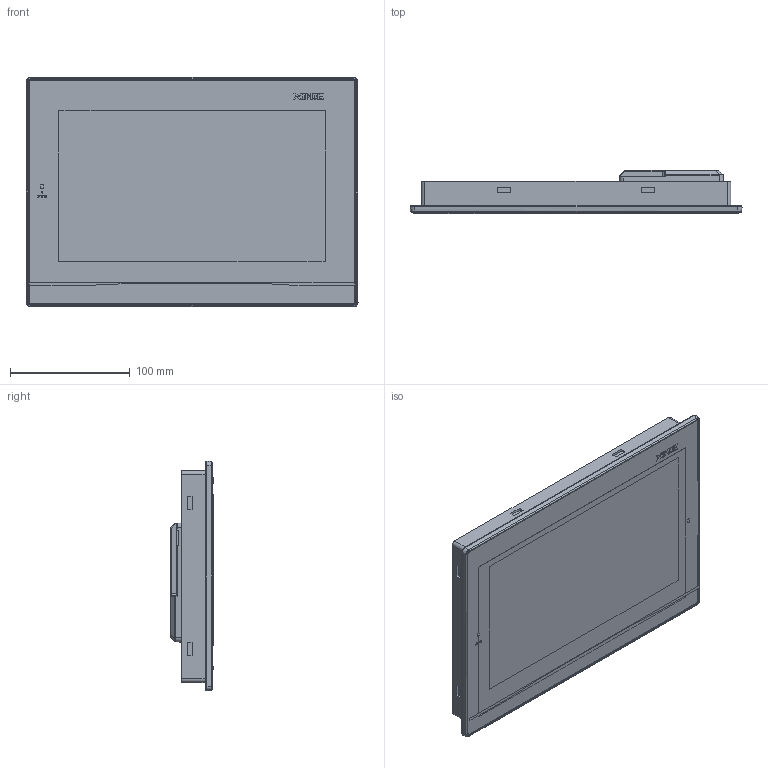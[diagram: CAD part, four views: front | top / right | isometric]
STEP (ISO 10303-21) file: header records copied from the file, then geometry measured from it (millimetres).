
FILE_DESCRIPTION(/* description */ (''),/* implementation_level */ '2;1');
FILE_NAME(/* name */ 'TGMA63~1',/* time_stamp */ '2023-04-10T16:50:36+08:00',/* author */ (''),/* organization */ (''),/* preprocessor_version */ 'ST-DEVELOPER v16.5',/* originating_system */ '',/* authorisation */ '');
FILE_SCHEMA (('AUTOMOTIVE_DESIGN'));
Length unit declared in the file: millimetre
Products named in the file (1): Document
Bounding box: 276.92 x 35.98 x 191.6 mm (x, y, z)
Volume: 1139872.8 mm3; surface area: 346631.3 mm2
Topology: 4 solids, 267 shells, 517 faces, 1966 edges, 1736 vertices
Faces by surface type: plane 264, bspline 253
Entity records: 30247 total; most frequent: CARTESIAN_POINT 16799, ORIENTED_EDGE 2601, EDGE_CURVE 1964, VERTEX_POINT 1736, B_SPLINE_CURVE_WITH_KNOTS 1631, EDGE_LOOP 595, ADVANCED_FACE 517, FACE_OUTER_BOUND 517
